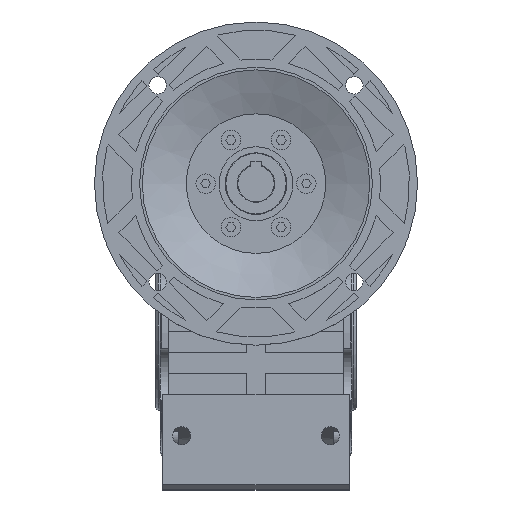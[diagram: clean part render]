
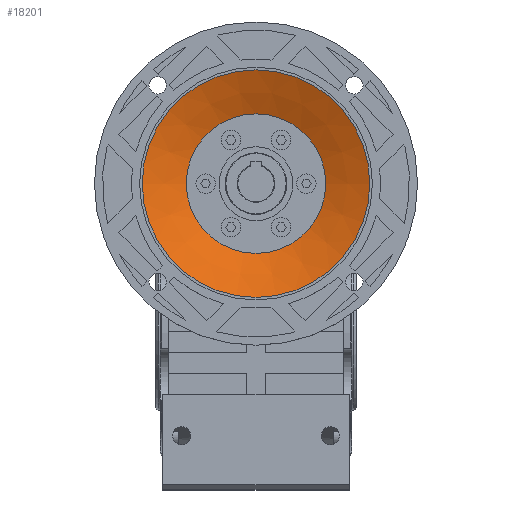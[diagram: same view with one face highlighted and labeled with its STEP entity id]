
A CAD part, top view. The second image highlights one B-rep face of the part: STEP entity #18201.
In plain terms, the highlighted conical face has half-angle 67.999 degrees and reference radius 53.969 mm.
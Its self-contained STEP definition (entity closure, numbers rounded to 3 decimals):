
#136=CONICAL_SURFACE('',#19802,53.969,1.187);
#1853=LINE('',#30033,#3590);
#3590=VECTOR('',#24665,53.969);
#5014=FACE_OUTER_BOUND('',#6132,.T.);
#6132=EDGE_LOOP('',(#15617,#15618,#15619,#15620));
#6750=CIRCLE('',#19789,88.);
#6757=CIRCLE('',#19803,53.969);
#8357=VERTEX_POINT('',#30006);
#8364=VERTEX_POINT('',#30031);
#10778=EDGE_CURVE('',#8357,#8357,#6750,.T.);
#10789=EDGE_CURVE('',#8364,#8364,#6757,.T.);
#10790=EDGE_CURVE('',#8364,#8357,#1853,.T.);
#15617=ORIENTED_EDGE('',*,*,#10789,.T.);
#15618=ORIENTED_EDGE('',*,*,#10790,.T.);
#15619=ORIENTED_EDGE('',*,*,#10778,.F.);
#15620=ORIENTED_EDGE('',*,*,#10790,.F.);
#18201=ADVANCED_FACE('',(#5014),#136,.F.);
#19789=AXIS2_PLACEMENT_3D('',#30007,#24631,#24632);
#19802=AXIS2_PLACEMENT_3D('',#30030,#24661,#24662);
#19803=AXIS2_PLACEMENT_3D('',#30032,#24663,#24664);
#24631=DIRECTION('center_axis',(0.,0.,
-1.));
#24632=DIRECTION('ref_axis',(-1.,0.,0.));
#24661=DIRECTION('center_axis',(0.,0.,
1.));
#24662=DIRECTION('ref_axis',(1.,0.,0.));
#24663=DIRECTION('center_axis',(0.,0.,
-1.));
#24664=DIRECTION('ref_axis',(-1.,0.,0.));
#24665=DIRECTION('',(-0.927,0.,0.375));
#30006=CARTESIAN_POINT('',(147.275,762.327,176.86));
#30007=CARTESIAN_POINT('Origin',(235.275,762.327,176.86));
#30030=CARTESIAN_POINT('Origin',(235.275,762.327,163.11));
#30031=CARTESIAN_POINT('',(181.306,762.327,163.11));
#30032=CARTESIAN_POINT('Origin',(235.275,762.327,163.11));
#30033=CARTESIAN_POINT('',(181.306,762.327,163.11));
